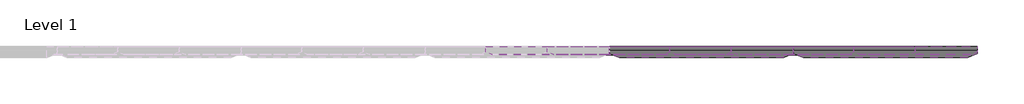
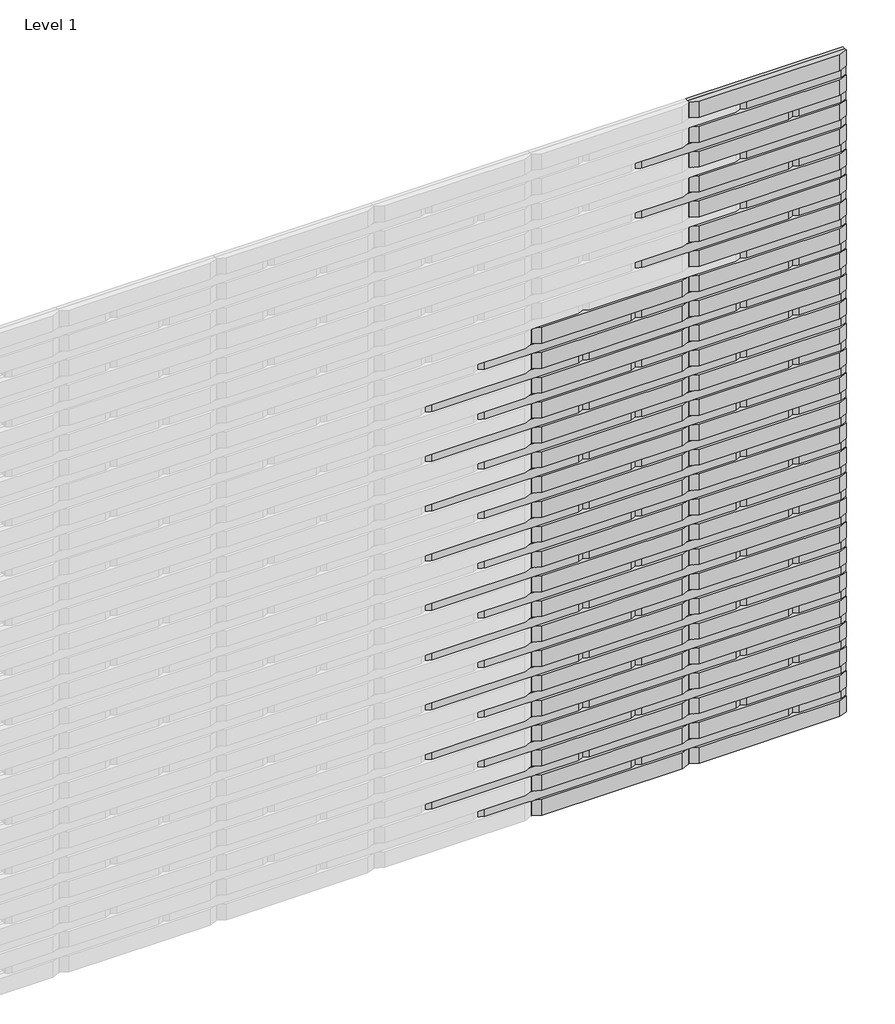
# One storey, part 3 of 3: 114 proxies.
"""IFC4 building model written with IfcOpenShell, lengths in millimetres."""

from ifc_helpers import new_model, si_unit, origin, place, context, project, spatial, transform, mapped, element, save
from components import specialty_equipment_40f1bc00, specialty_equipment_8bea2172, specialty_equipment_72e67ab6, specialty_equipment_d85b5aa4

model = new_model("IFC4")

# Units and contexts
model_context = context("Model", 3, world=origin())
ifc_project = project(units=[si_unit("LENGTHUNIT", "METRE", prefix="MILLI")], contexts=[model_context])

# Site, building, storey
site = spatial("IfcSite", under=ifc_project)
building = spatial("IfcBuilding", under=site)
storey = spatial("IfcBuildingStorey", under=building, Name="Level 1", Elevation=0.0)

# Proxies
placement = place(None, origin())
specialty_equipment_shape = specialty_equipment_40f1bc00(model_context)
element("IfcBuildingElementProxy", 1, Name="Spinneybeck_ARO Plank 8 : A - 2’-9” x 3 1/2” x 1 1/4”", ObjectType="Spinneybeck_ARO Plank 8 : A - 2’-9” x 3 1/2” x 1 1/4”", at=placement, inside=storey, context=model_context, shape_type="MappedRepresentation", body=[
    mapped(specialty_equipment_shape, transform((4490.979612, 2593.3070483, 3755.55), x_axis=(1.0, 0.0, 0.0), y_axis=(0.0, 0.0, 1.0), z_axis=(0.0, -1.0, 0.0))),
])
element("IfcBuildingElementProxy", 2, Name="Spinneybeck_ARO Plank 8 : A - 2’-9” x 3 1/2” x 1 1/4”", ObjectType="Spinneybeck_ARO Plank 8 : A - 2’-9” x 3 1/2” x 1 1/4”", at=placement, inside=storey, context=model_context, shape_type="MappedRepresentation", body=[
    mapped(specialty_equipment_shape, transform((4490.979612, 2593.3070483, 3615.85), x_axis=(1.0, 0.0, 0.0), y_axis=(0.0, 0.0, 1.0), z_axis=(0.0, -1.0, 0.0))),
])
element("IfcBuildingElementProxy", 3, Name="Spinneybeck_ARO Plank 8 : A - 2’-9” x 3 1/2” x 1 1/4”", ObjectType="Spinneybeck_ARO Plank 8 : A - 2’-9” x 3 1/2” x 1 1/4”", at=placement, inside=storey, context=model_context, shape_type="MappedRepresentation", body=[
    mapped(specialty_equipment_shape, transform((4490.979612, 2593.3070483, 3476.15), x_axis=(1.0, 0.0, 0.0), y_axis=(0.0, 0.0, 1.0), z_axis=(0.0, -1.0, 0.0))),
])
element("IfcBuildingElementProxy", 4, Name="Spinneybeck_ARO Plank 8 : A - 2’-9” x 3 1/2” x 1 1/4”", ObjectType="Spinneybeck_ARO Plank 8 : A - 2’-9” x 3 1/2” x 1 1/4”", at=placement, inside=storey, context=model_context, shape_type="MappedRepresentation", body=[
    mapped(specialty_equipment_shape, transform((4490.979612, 2593.3070483, 3336.45), x_axis=(1.0, 0.0, 0.0), y_axis=(0.0, 0.0, 1.0), z_axis=(0.0, -1.0, 0.0))),
])
element("IfcBuildingElementProxy", 5, Name="Spinneybeck_ARO Plank 8 : A - 2’-9” x 3 1/2” x 1 1/4”", ObjectType="Spinneybeck_ARO Plank 8 : A - 2’-9” x 3 1/2” x 1 1/4”", at=placement, inside=storey, context=model_context, shape_type="MappedRepresentation", body=[
    mapped(specialty_equipment_shape, transform((4490.979612, 2593.3070483, 3196.75), x_axis=(1.0, 0.0, 0.0), y_axis=(0.0, 0.0, 1.0), z_axis=(0.0, -1.0, 0.0))),
])
element("IfcBuildingElementProxy", 6, Name="Spinneybeck_ARO Plank 8 : A - 2’-9” x 3 1/2” x 1 1/4”", ObjectType="Spinneybeck_ARO Plank 8 : A - 2’-9” x 3 1/2” x 1 1/4”", at=placement, inside=storey, context=model_context, shape_type="MappedRepresentation", body=[
    mapped(specialty_equipment_shape, transform((4490.979612, 2593.3070483, 3057.05), x_axis=(1.0, 0.0, 0.0), y_axis=(0.0, 0.0, 1.0), z_axis=(0.0, -1.0, 0.0))),
])
element("IfcBuildingElementProxy", 7, Name="Spinneybeck_ARO Plank 8 : A - 2’-9” x 3 1/2” x 1 1/4”", ObjectType="Spinneybeck_ARO Plank 8 : A - 2’-9” x 3 1/2” x 1 1/4”", at=placement, inside=storey, context=model_context, shape_type="MappedRepresentation", body=[
    mapped(specialty_equipment_shape, transform((4490.979612, 2593.3070483, 2917.35), x_axis=(1.0, 0.0, 0.0), y_axis=(0.0, 0.0, 1.0), z_axis=(0.0, -1.0, 0.0))),
])
element("IfcBuildingElementProxy", 8, Name="Spinneybeck_ARO Plank 8 : A - 2’-9” x 3 1/2” x 1 1/4”", ObjectType="Spinneybeck_ARO Plank 8 : A - 2’-9” x 3 1/2” x 1 1/4”", at=placement, inside=storey, context=model_context, shape_type="MappedRepresentation", body=[
    mapped(specialty_equipment_shape, transform((3652.779612, 2593.3070483, 2777.65), x_axis=(1.0, 0.0, 0.0), y_axis=(0.0, 0.0, 1.0), z_axis=(0.0, -1.0, 0.0))),
])
element("IfcBuildingElementProxy", 9, Name="Spinneybeck_ARO Plank 8 : A - 2’-9” x 3 1/2” x 1 1/4”", ObjectType="Spinneybeck_ARO Plank 8 : A - 2’-9” x 3 1/2” x 1 1/4”", at=placement, inside=storey, context=model_context, shape_type="MappedRepresentation", body=[
    mapped(specialty_equipment_shape, transform((4490.979612, 2593.3070483, 2777.65), x_axis=(1.0, 0.0, 0.0), y_axis=(0.0, 0.0, 1.0), z_axis=(0.0, -1.0, 0.0))),
])
element("IfcBuildingElementProxy", 10, Name="Spinneybeck_ARO Plank 8 : A - 2’-9” x 3 1/2” x 1 1/4”", ObjectType="Spinneybeck_ARO Plank 8 : A - 2’-9” x 3 1/2” x 1 1/4”", at=placement, inside=storey, context=model_context, shape_type="MappedRepresentation", body=[
    mapped(specialty_equipment_shape, transform((3652.779612, 2593.3070483, 2637.95), x_axis=(1.0, 0.0, 0.0), y_axis=(0.0, 0.0, 1.0), z_axis=(0.0, -1.0, 0.0))),
])
element("IfcBuildingElementProxy", 11, Name="Spinneybeck_ARO Plank 8 : A - 2’-9” x 3 1/2” x 1 1/4”", ObjectType="Spinneybeck_ARO Plank 8 : A - 2’-9” x 3 1/2” x 1 1/4”", at=placement, inside=storey, context=model_context, shape_type="MappedRepresentation", body=[
    mapped(specialty_equipment_shape, transform((4490.979612, 2593.3070483, 2637.95), x_axis=(1.0, 0.0, 0.0), y_axis=(0.0, 0.0, 1.0), z_axis=(0.0, -1.0, 0.0))),
])
element("IfcBuildingElementProxy", 12, Name="Spinneybeck_ARO Plank 8 : A - 2’-9” x 3 1/2” x 1 1/4”", ObjectType="Spinneybeck_ARO Plank 8 : A - 2’-9” x 3 1/2” x 1 1/4”", at=placement, inside=storey, context=model_context, shape_type="MappedRepresentation", body=[
    mapped(specialty_equipment_shape, transform((3652.779612, 2593.3070483, 2498.25), x_axis=(1.0, 0.0, 0.0), y_axis=(0.0, 0.0, 1.0), z_axis=(0.0, -1.0, 0.0))),
])
element("IfcBuildingElementProxy", 13, Name="Spinneybeck_ARO Plank 8 : A - 2’-9” x 3 1/2” x 1 1/4”", ObjectType="Spinneybeck_ARO Plank 8 : A - 2’-9” x 3 1/2” x 1 1/4”", at=placement, inside=storey, context=model_context, shape_type="MappedRepresentation", body=[
    mapped(specialty_equipment_shape, transform((4490.979612, 2593.3070483, 2498.25), x_axis=(1.0, 0.0, 0.0), y_axis=(0.0, 0.0, 1.0), z_axis=(0.0, -1.0, 0.0))),
])
element("IfcBuildingElementProxy", 14, Name="Spinneybeck_ARO Plank 8 : A - 2’-9” x 3 1/2” x 1 1/4”", ObjectType="Spinneybeck_ARO Plank 8 : A - 2’-9” x 3 1/2” x 1 1/4”", at=placement, inside=storey, context=model_context, shape_type="MappedRepresentation", body=[
    mapped(specialty_equipment_shape, transform((3652.779612, 2593.3070483, 2358.55), x_axis=(1.0, 0.0, 0.0), y_axis=(0.0, 0.0, 1.0), z_axis=(0.0, -1.0, 0.0))),
])
element("IfcBuildingElementProxy", 15, Name="Spinneybeck_ARO Plank 8 : A - 2’-9” x 3 1/2” x 1 1/4”", ObjectType="Spinneybeck_ARO Plank 8 : A - 2’-9” x 3 1/2” x 1 1/4”", at=placement, inside=storey, context=model_context, shape_type="MappedRepresentation", body=[
    mapped(specialty_equipment_shape, transform((4490.979612, 2593.3070483, 2358.55), x_axis=(1.0, 0.0, 0.0), y_axis=(0.0, 0.0, 1.0), z_axis=(0.0, -1.0, 0.0))),
])
element("IfcBuildingElementProxy", 16, Name="Spinneybeck_ARO Plank 8 : A - 2’-9” x 3 1/2” x 1 1/4”", ObjectType="Spinneybeck_ARO Plank 8 : A - 2’-9” x 3 1/2” x 1 1/4”", at=placement, inside=storey, context=model_context, shape_type="MappedRepresentation", body=[
    mapped(specialty_equipment_shape, transform((3652.779612, 2593.3070483, 2218.85), x_axis=(1.0, 0.0, 0.0), y_axis=(0.0, 0.0, 1.0), z_axis=(0.0, -1.0, 0.0))),
])
element("IfcBuildingElementProxy", 17, Name="Spinneybeck_ARO Plank 8 : A - 2’-9” x 3 1/2” x 1 1/4”", ObjectType="Spinneybeck_ARO Plank 8 : A - 2’-9” x 3 1/2” x 1 1/4”", at=placement, inside=storey, context=model_context, shape_type="MappedRepresentation", body=[
    mapped(specialty_equipment_shape, transform((4490.979612, 2593.3070483, 2218.85), x_axis=(1.0, 0.0, 0.0), y_axis=(0.0, 0.0, 1.0), z_axis=(0.0, -1.0, 0.0))),
])
element("IfcBuildingElementProxy", 18, Name="Spinneybeck_ARO Plank 8 : A - 2’-9” x 3 1/2” x 1 1/4”", ObjectType="Spinneybeck_ARO Plank 8 : A - 2’-9” x 3 1/2” x 1 1/4”", at=placement, inside=storey, context=model_context, shape_type="MappedRepresentation", body=[
    mapped(specialty_equipment_shape, transform((3652.779612, 2593.3070483, 2079.15), x_axis=(1.0, 0.0, 0.0), y_axis=(0.0, 0.0, 1.0), z_axis=(0.0, -1.0, 0.0))),
])
element("IfcBuildingElementProxy", 19, Name="Spinneybeck_ARO Plank 8 : A - 2’-9” x 3 1/2” x 1 1/4”", ObjectType="Spinneybeck_ARO Plank 8 : A - 2’-9” x 3 1/2” x 1 1/4”", at=placement, inside=storey, context=model_context, shape_type="MappedRepresentation", body=[
    mapped(specialty_equipment_shape, transform((4490.979612, 2593.3070483, 2079.15), x_axis=(1.0, 0.0, 0.0), y_axis=(0.0, 0.0, 1.0), z_axis=(0.0, -1.0, 0.0))),
])
element("IfcBuildingElementProxy", 20, Name="Spinneybeck_ARO Plank 8 : A - 2’-9” x 3 1/2” x 1 1/4”", ObjectType="Spinneybeck_ARO Plank 8 : A - 2’-9” x 3 1/2” x 1 1/4”", at=placement, inside=storey, context=model_context, shape_type="MappedRepresentation", body=[
    mapped(specialty_equipment_shape, transform((3652.779612, 2593.3070483, 1939.45), x_axis=(1.0, 0.0, 0.0), y_axis=(0.0, 0.0, 1.0), z_axis=(0.0, -1.0, 0.0))),
])
element("IfcBuildingElementProxy", 21, Name="Spinneybeck_ARO Plank 8 : A - 2’-9” x 3 1/2” x 1 1/4”", ObjectType="Spinneybeck_ARO Plank 8 : A - 2’-9” x 3 1/2” x 1 1/4”", at=placement, inside=storey, context=model_context, shape_type="MappedRepresentation", body=[
    mapped(specialty_equipment_shape, transform((4490.979612, 2593.3070483, 1939.45), x_axis=(1.0, 0.0, 0.0), y_axis=(0.0, 0.0, 1.0), z_axis=(0.0, -1.0, 0.0))),
])
element("IfcBuildingElementProxy", 22, Name="Spinneybeck_ARO Plank 8 : A - 2’-9” x 3 1/2” x 1 1/4”", ObjectType="Spinneybeck_ARO Plank 8 : A - 2’-9” x 3 1/2” x 1 1/4”", at=placement, inside=storey, context=model_context, shape_type="MappedRepresentation", body=[
    mapped(specialty_equipment_shape, transform((3652.779612, 2593.3070483, 1799.75), x_axis=(1.0, 0.0, 0.0), y_axis=(0.0, 0.0, 1.0), z_axis=(0.0, -1.0, 0.0))),
])
element("IfcBuildingElementProxy", 23, Name="Spinneybeck_ARO Plank 8 : A - 2’-9” x 3 1/2” x 1 1/4”", ObjectType="Spinneybeck_ARO Plank 8 : A - 2’-9” x 3 1/2” x 1 1/4”", at=placement, inside=storey, context=model_context, shape_type="MappedRepresentation", body=[
    mapped(specialty_equipment_shape, transform((4490.979612, 2593.3070483, 1799.75), x_axis=(1.0, 0.0, 0.0), y_axis=(0.0, 0.0, 1.0), z_axis=(0.0, -1.0, 0.0))),
])
element("IfcBuildingElementProxy", 24, Name="Spinneybeck_ARO Plank 8 : A - 2’-9” x 3 1/2” x 1 1/4”", ObjectType="Spinneybeck_ARO Plank 8 : A - 2’-9” x 3 1/2” x 1 1/4”", at=placement, inside=storey, context=model_context, shape_type="MappedRepresentation", body=[
    mapped(specialty_equipment_shape, transform((3652.779612, 2593.3070483, 1660.05), x_axis=(1.0, 0.0, 0.0), y_axis=(0.0, 0.0, 1.0), z_axis=(0.0, -1.0, 0.0))),
])
element("IfcBuildingElementProxy", 25, Name="Spinneybeck_ARO Plank 8 : A - 2’-9” x 3 1/2” x 1 1/4”", ObjectType="Spinneybeck_ARO Plank 8 : A - 2’-9” x 3 1/2” x 1 1/4”", at=placement, inside=storey, context=model_context, shape_type="MappedRepresentation", body=[
    mapped(specialty_equipment_shape, transform((4490.979612, 2593.3070483, 1660.05), x_axis=(1.0, 0.0, 0.0), y_axis=(0.0, 0.0, 1.0), z_axis=(0.0, -1.0, 0.0))),
])
element("IfcBuildingElementProxy", 26, Name="Spinneybeck_ARO Plank 8 : A - 2’-9” x 3 1/2” x 1 1/4”", ObjectType="Spinneybeck_ARO Plank 8 : A - 2’-9” x 3 1/2” x 1 1/4”", at=placement, inside=storey, context=model_context, shape_type="MappedRepresentation", body=[
    mapped(specialty_equipment_shape, transform((3652.779612, 2593.3070483, 1520.35), x_axis=(1.0, 0.0, 0.0), y_axis=(0.0, 0.0, 1.0), z_axis=(0.0, -1.0, 0.0))),
])
element("IfcBuildingElementProxy", 27, Name="Spinneybeck_ARO Plank 8 : A - 2’-9” x 3 1/2” x 1 1/4”", ObjectType="Spinneybeck_ARO Plank 8 : A - 2’-9” x 3 1/2” x 1 1/4”", at=placement, inside=storey, context=model_context, shape_type="MappedRepresentation", body=[
    mapped(specialty_equipment_shape, transform((4490.979612, 2593.3070483, 1520.35), x_axis=(1.0, 0.0, 0.0), y_axis=(0.0, 0.0, 1.0), z_axis=(0.0, -1.0, 0.0))),
])
element("IfcBuildingElementProxy", 28, Name="Spinneybeck_ARO Plank 8 : A - 2’-9” x 3 1/2” x 1 1/4”", ObjectType="Spinneybeck_ARO Plank 8 : A - 2’-9” x 3 1/2” x 1 1/4”", at=placement, inside=storey, context=model_context, shape_type="MappedRepresentation", body=[
    mapped(specialty_equipment_shape, transform((3652.779612, 2593.3070483, 1380.65), x_axis=(1.0, 0.0, 0.0), y_axis=(0.0, 0.0, 1.0), z_axis=(0.0, -1.0, 0.0))),
])
element("IfcBuildingElementProxy", 29, Name="Spinneybeck_ARO Plank 8 : A - 2’-9” x 3 1/2” x 1 1/4”", ObjectType="Spinneybeck_ARO Plank 8 : A - 2’-9” x 3 1/2” x 1 1/4”", at=placement, inside=storey, context=model_context, shape_type="MappedRepresentation", body=[
    mapped(specialty_equipment_shape, transform((4490.979612, 2593.3070483, 1380.65), x_axis=(1.0, 0.0, 0.0), y_axis=(0.0, 0.0, 1.0), z_axis=(0.0, -1.0, 0.0))),
])
element("IfcBuildingElementProxy", 30, Name="Spinneybeck_ARO Plank 8 : A - 2’-9” x 3 1/2” x 1 1/4”", ObjectType="Spinneybeck_ARO Plank 8 : A - 2’-9” x 3 1/2” x 1 1/4”", at=placement, inside=storey, context=model_context, shape_type="MappedRepresentation", body=[
    mapped(specialty_equipment_shape, transform((3652.779612, 2593.3070483, 1240.95), x_axis=(1.0, 0.0, 0.0), y_axis=(0.0, 0.0, 1.0), z_axis=(0.0, -1.0, 0.0))),
])
element("IfcBuildingElementProxy", 31, Name="Spinneybeck_ARO Plank 8 : A - 2’-9” x 3 1/2” x 1 1/4”", ObjectType="Spinneybeck_ARO Plank 8 : A - 2’-9” x 3 1/2” x 1 1/4”", at=placement, inside=storey, context=model_context, shape_type="MappedRepresentation", body=[
    mapped(specialty_equipment_shape, transform((4490.979612, 2593.3070483, 1240.95), x_axis=(1.0, 0.0, 0.0), y_axis=(0.0, 0.0, 1.0), z_axis=(0.0, -1.0, 0.0))),
])
element("IfcBuildingElementProxy", 32, Name="Spinneybeck_ARO Plank 8 : A - 2’-9” x 3 1/2” x 1 1/4”", ObjectType="Spinneybeck_ARO Plank 8 : A - 2’-9” x 3 1/2” x 1 1/4”", at=placement, inside=storey, context=model_context, shape_type="MappedRepresentation", body=[
    mapped(specialty_equipment_shape, transform((3652.779612, 2593.3070483, 1101.25), x_axis=(1.0, 0.0, 0.0), y_axis=(0.0, 0.0, 1.0), z_axis=(0.0, -1.0, 0.0))),
])
element("IfcBuildingElementProxy", 33, Name="Spinneybeck_ARO Plank 8 : A - 2’-9” x 3 1/2” x 1 1/4”", ObjectType="Spinneybeck_ARO Plank 8 : A - 2’-9” x 3 1/2” x 1 1/4”", at=placement, inside=storey, context=model_context, shape_type="MappedRepresentation", body=[
    mapped(specialty_equipment_shape, transform((4490.979612, 2593.3070483, 1101.25), x_axis=(1.0, 0.0, 0.0), y_axis=(0.0, 0.0, 1.0), z_axis=(0.0, -1.0, 0.0))),
])
element("IfcBuildingElementProxy", 34, Name="Spinneybeck_ARO Plank 8 : A - 2’-9” x 3 1/2” x 1 1/4”", ObjectType="Spinneybeck_ARO Plank 8 : A - 2’-9” x 3 1/2” x 1 1/4”", at=placement, inside=storey, context=model_context, shape_type="MappedRepresentation", body=[
    mapped(specialty_equipment_shape, transform((3652.779612, 2593.3070483, 961.55), x_axis=(1.0, 0.0, 0.0), y_axis=(0.0, 0.0, 1.0), z_axis=(0.0, -1.0, 0.0))),
])
element("IfcBuildingElementProxy", 35, Name="Spinneybeck_ARO Plank 8 : A - 2’-9” x 3 1/2” x 1 1/4”", ObjectType="Spinneybeck_ARO Plank 8 : A - 2’-9” x 3 1/2” x 1 1/4”", at=placement, inside=storey, context=model_context, shape_type="MappedRepresentation", body=[
    mapped(specialty_equipment_shape, transform((4490.979612, 2593.3070483, 961.55), x_axis=(1.0, 0.0, 0.0), y_axis=(0.0, 0.0, 1.0), z_axis=(0.0, -1.0, 0.0))),
])
element("IfcBuildingElementProxy", 36, Name="Spinneybeck_ARO Plank 8 : A - 2’-9” x 3 1/2” x 1 1/4”", ObjectType="Spinneybeck_ARO Plank 8 : A - 2’-9” x 3 1/2” x 1 1/4”", at=placement, inside=storey, context=model_context, shape_type="MappedRepresentation", body=[
    mapped(specialty_equipment_shape, transform((3652.779612, 2593.3070483, 821.85), x_axis=(1.0, 0.0, 0.0), y_axis=(0.0, 0.0, 1.0), z_axis=(0.0, -1.0, 0.0))),
])
element("IfcBuildingElementProxy", 37, Name="Spinneybeck_ARO Plank 8 : A - 2’-9” x 3 1/2” x 1 1/4”", ObjectType="Spinneybeck_ARO Plank 8 : A - 2’-9” x 3 1/2” x 1 1/4”", at=placement, inside=storey, context=model_context, shape_type="MappedRepresentation", body=[
    mapped(specialty_equipment_shape, transform((4490.979612, 2593.3070483, 821.85), x_axis=(1.0, 0.0, 0.0), y_axis=(0.0, 0.0, 1.0), z_axis=(0.0, -1.0, 0.0))),
])
element("IfcBuildingElementProxy", 38, Name="Spinneybeck_ARO Plank 8 : A - 2’-9” x 3 1/2” x 1 1/4”", ObjectType="Spinneybeck_ARO Plank 8 : A - 2’-9” x 3 1/2” x 1 1/4”", at=placement, inside=storey, context=model_context, shape_type="MappedRepresentation", body=[
    mapped(specialty_equipment_shape, transform((3652.779612, 2593.3070483, 682.15), x_axis=(1.0, 0.0, 0.0), y_axis=(0.0, 0.0, 1.0), z_axis=(0.0, -1.0, 0.0))),
])
element("IfcBuildingElementProxy", 39, Name="Spinneybeck_ARO Plank 8 : A - 2’-9” x 3 1/2” x 1 1/4”", ObjectType="Spinneybeck_ARO Plank 8 : A - 2’-9” x 3 1/2” x 1 1/4”", at=placement, inside=storey, context=model_context, shape_type="MappedRepresentation", body=[
    mapped(specialty_equipment_shape, transform((4490.979612, 2593.3070483, 682.15), x_axis=(1.0, 0.0, 0.0), y_axis=(0.0, 0.0, 1.0), z_axis=(0.0, -1.0, 0.0))),
])
element("IfcBuildingElementProxy", 40, Name="Spinneybeck_ARO Plank 8 : A - 2’-9” x 3 1/2” x 1 1/4”", ObjectType="Spinneybeck_ARO Plank 8 : A - 2’-9” x 3 1/2” x 1 1/4”", at=placement, inside=storey, context=model_context, shape_type="MappedRepresentation", body=[
    mapped(specialty_equipment_shape, transform((3652.779612, 2593.3070483, 542.45), x_axis=(1.0, 0.0, 0.0), y_axis=(0.0, 0.0, 1.0), z_axis=(0.0, -1.0, 0.0))),
])
element("IfcBuildingElementProxy", 41, Name="Spinneybeck_ARO Plank 8 : A - 2’-9” x 3 1/2” x 1 1/4”", ObjectType="Spinneybeck_ARO Plank 8 : A - 2’-9” x 3 1/2” x 1 1/4”", at=placement, inside=storey, context=model_context, shape_type="MappedRepresentation", body=[
    mapped(specialty_equipment_shape, transform((4490.979612, 2593.3070483, 542.45), x_axis=(1.0, 0.0, 0.0), y_axis=(0.0, 0.0, 1.0), z_axis=(0.0, -1.0, 0.0))),
])
element("IfcBuildingElementProxy", 42, Name="Spinneybeck_ARO Plank 8 : A - 2’-9” x 3 1/2” x 1 1/4”", ObjectType="Spinneybeck_ARO Plank 8 : A - 2’-9” x 3 1/2” x 1 1/4”", at=placement, inside=storey, context=model_context, shape_type="MappedRepresentation", body=[
    mapped(specialty_equipment_shape, transform((3652.779612, 2593.3070483, 402.75), x_axis=(1.0, 0.0, 0.0), y_axis=(0.0, 0.0, 1.0), z_axis=(0.0, -1.0, 0.0))),
])
element("IfcBuildingElementProxy", 43, Name="Spinneybeck_ARO Plank 8 : A - 2’-9” x 3 1/2” x 1 1/4”", ObjectType="Spinneybeck_ARO Plank 8 : A - 2’-9” x 3 1/2” x 1 1/4”", at=placement, inside=storey, context=model_context, shape_type="MappedRepresentation", body=[
    mapped(specialty_equipment_shape, transform((4490.979612, 2593.3070483, 402.75), x_axis=(1.0, 0.0, 0.0), y_axis=(0.0, 0.0, 1.0), z_axis=(0.0, -1.0, 0.0))),
])
element("IfcBuildingElementProxy", 44, Name="Spinneybeck_ARO Plank 8 : A - 2’-9” x 3 1/2” x 1 1/4”", ObjectType="Spinneybeck_ARO Plank 8 : A - 2’-9” x 3 1/2” x 1 1/4”", at=placement, inside=storey, context=model_context, shape_type="MappedRepresentation", body=[
    mapped(specialty_equipment_shape, transform((3652.779612, 2593.3070483, 263.05), x_axis=(1.0, 0.0, 0.0), y_axis=(0.0, 0.0, 1.0), z_axis=(0.0, -1.0, 0.0))),
])
element("IfcBuildingElementProxy", 45, Name="Spinneybeck_ARO Plank 8 : A - 2’-9” x 3 1/2” x 1 1/4”", ObjectType="Spinneybeck_ARO Plank 8 : A - 2’-9” x 3 1/2” x 1 1/4”", at=placement, inside=storey, context=model_context, shape_type="MappedRepresentation", body=[
    mapped(specialty_equipment_shape, transform((4490.979612, 2593.3070483, 263.05), x_axis=(1.0, 0.0, 0.0), y_axis=(0.0, 0.0, 1.0), z_axis=(0.0, -1.0, 0.0))),
])
element("IfcBuildingElementProxy", 46, Name="Spinneybeck_ARO Plank 8 : A - 2’-9” x 3 1/2” x 1 1/4”", ObjectType="Spinneybeck_ARO Plank 8 : A - 2’-9” x 3 1/2” x 1 1/4”", at=placement, inside=storey, context=model_context, shape_type="MappedRepresentation", body=[
    mapped(specialty_equipment_shape, transform((3652.779612, 2593.3070483, 123.35), x_axis=(1.0, 0.0, 0.0), y_axis=(0.0, 0.0, 1.0), z_axis=(0.0, -1.0, 0.0))),
])
element("IfcBuildingElementProxy", 47, Name="Spinneybeck_ARO Plank 8 : A - 2’-9” x 3 1/2” x 1 1/4”", ObjectType="Spinneybeck_ARO Plank 8 : A - 2’-9” x 3 1/2” x 1 1/4”", at=placement, inside=storey, context=model_context, shape_type="MappedRepresentation", body=[
    mapped(specialty_equipment_shape, transform((4490.979612, 2593.3070483, 123.35), x_axis=(1.0, 0.0, 0.0), y_axis=(0.0, 0.0, 1.0), z_axis=(0.0, -1.0, 0.0))),
])
specialty_equipment_2_shape = specialty_equipment_8bea2172(model_context)
element("IfcBuildingElementProxy", 48, Name="Spinneybeck_ARO Plank 8 : B - 2’-9” x 2” x 3/4”", ObjectType="Spinneybeck_ARO Plank 8 : B - 2’-9” x 2” x 3/4”", at=placement, inside=storey, context=model_context, shape_type="MappedRepresentation", body=[
    mapped(specialty_equipment_2_shape, transform((4208.436232, 2593.3070483, 3546.0), x_axis=(1.0, 0.0, 0.0), y_axis=(0.0, 0.0, 1.0), z_axis=(0.0, -1.0, 0.0))),
])
element("IfcBuildingElementProxy", 49, Name="Spinneybeck_ARO Plank 8 : B - 2’-9” x 2” x 3/4”", ObjectType="Spinneybeck_ARO Plank 8 : B - 2’-9” x 2” x 3/4”", at=placement, inside=storey, context=model_context, shape_type="MappedRepresentation", body=[
    mapped(specialty_equipment_2_shape, transform((4208.436232, 2593.3070483, 3266.6), x_axis=(1.0, 0.0, 0.0), y_axis=(0.0, 0.0, 1.0), z_axis=(0.0, -1.0, 0.0))),
])
element("IfcBuildingElementProxy", 50, Name="Spinneybeck_ARO Plank 8 : B - 2’-9” x 2” x 3/4”", ObjectType="Spinneybeck_ARO Plank 8 : B - 2’-9” x 2” x 3/4”", at=placement, inside=storey, context=model_context, shape_type="MappedRepresentation", body=[
    mapped(specialty_equipment_2_shape, transform((4208.436232, 2593.3070483, 2987.2), x_axis=(1.0, 0.0, 0.0), y_axis=(0.0, 0.0, 1.0), z_axis=(0.0, -1.0, 0.0))),
])
element("IfcBuildingElementProxy", 51, Name="Spinneybeck_ARO Plank 8 : B - 2’-9” x 2” x 3/4”", ObjectType="Spinneybeck_ARO Plank 8 : B - 2’-9” x 2” x 3/4”", at=placement, inside=storey, context=model_context, shape_type="MappedRepresentation", body=[
    mapped(specialty_equipment_2_shape, transform((3370.236232, 2593.3070483, 2707.8), x_axis=(1.0, 0.0, 0.0), y_axis=(0.0, 0.0, 1.0), z_axis=(0.0, -1.0, 0.0))),
])
element("IfcBuildingElementProxy", 52, Name="Spinneybeck_ARO Plank 8 : B - 2’-9” x 2” x 3/4”", ObjectType="Spinneybeck_ARO Plank 8 : B - 2’-9” x 2” x 3/4”", at=placement, inside=storey, context=model_context, shape_type="MappedRepresentation", body=[
    mapped(specialty_equipment_2_shape, transform((4208.436232, 2593.3070483, 2707.8), x_axis=(1.0, 0.0, 0.0), y_axis=(0.0, 0.0, 1.0), z_axis=(0.0, -1.0, 0.0))),
])
element("IfcBuildingElementProxy", 53, Name="Spinneybeck_ARO Plank 8 : B - 2’-9” x 2” x 3/4”", ObjectType="Spinneybeck_ARO Plank 8 : B - 2’-9” x 2” x 3/4”", at=placement, inside=storey, context=model_context, shape_type="MappedRepresentation", body=[
    mapped(specialty_equipment_2_shape, transform((3090.236232, 2593.3070483, 2568.1), x_axis=(1.0, 0.0, 0.0), y_axis=(0.0, 0.0, 1.0), z_axis=(0.0, -1.0, 0.0))),
])
element("IfcBuildingElementProxy", 54, Name="Spinneybeck_ARO Plank 8 : B - 2’-9” x 2” x 3/4”", ObjectType="Spinneybeck_ARO Plank 8 : B - 2’-9” x 2” x 3/4”", at=placement, inside=storey, context=model_context, shape_type="MappedRepresentation", body=[
    mapped(specialty_equipment_2_shape, transform((3928.436232, 2593.3070483, 2568.1), x_axis=(1.0, 0.0, 0.0), y_axis=(0.0, 0.0, 1.0), z_axis=(0.0, -1.0, 0.0))),
])
element("IfcBuildingElementProxy", 55, Name="Spinneybeck_ARO Plank 8 : B - 2’-9” x 2” x 3/4”", ObjectType="Spinneybeck_ARO Plank 8 : B - 2’-9” x 2” x 3/4”", at=placement, inside=storey, context=model_context, shape_type="MappedRepresentation", body=[
    mapped(specialty_equipment_2_shape, transform((3370.236232, 2593.3070483, 2428.4), x_axis=(1.0, 0.0, 0.0), y_axis=(0.0, 0.0, 1.0), z_axis=(0.0, -1.0, 0.0))),
])
element("IfcBuildingElementProxy", 56, Name="Spinneybeck_ARO Plank 8 : B - 2’-9” x 2” x 3/4”", ObjectType="Spinneybeck_ARO Plank 8 : B - 2’-9” x 2” x 3/4”", at=placement, inside=storey, context=model_context, shape_type="MappedRepresentation", body=[
    mapped(specialty_equipment_2_shape, transform((4208.436232, 2593.3070483, 2428.4), x_axis=(1.0, 0.0, 0.0), y_axis=(0.0, 0.0, 1.0), z_axis=(0.0, -1.0, 0.0))),
])
element("IfcBuildingElementProxy", 57, Name="Spinneybeck_ARO Plank 8 : B - 2’-9” x 2” x 3/4”", ObjectType="Spinneybeck_ARO Plank 8 : B - 2’-9” x 2” x 3/4”", at=placement, inside=storey, context=model_context, shape_type="MappedRepresentation", body=[
    mapped(specialty_equipment_2_shape, transform((3090.236232, 2593.3070483, 2288.7), x_axis=(1.0, 0.0, 0.0), y_axis=(0.0, 0.0, 1.0), z_axis=(0.0, -1.0, 0.0))),
])
element("IfcBuildingElementProxy", 58, Name="Spinneybeck_ARO Plank 8 : B - 2’-9” x 2” x 3/4”", ObjectType="Spinneybeck_ARO Plank 8 : B - 2’-9” x 2” x 3/4”", at=placement, inside=storey, context=model_context, shape_type="MappedRepresentation", body=[
    mapped(specialty_equipment_2_shape, transform((3928.436232, 2593.3070483, 2288.7), x_axis=(1.0, 0.0, 0.0), y_axis=(0.0, 0.0, 1.0), z_axis=(0.0, -1.0, 0.0))),
])
element("IfcBuildingElementProxy", 59, Name="Spinneybeck_ARO Plank 8 : B - 2’-9” x 2” x 3/4”", ObjectType="Spinneybeck_ARO Plank 8 : B - 2’-9” x 2” x 3/4”", at=placement, inside=storey, context=model_context, shape_type="MappedRepresentation", body=[
    mapped(specialty_equipment_2_shape, transform((3370.236232, 2593.3070483, 2149.0), x_axis=(1.0, 0.0, 0.0), y_axis=(0.0, 0.0, 1.0), z_axis=(0.0, -1.0, 0.0))),
])
element("IfcBuildingElementProxy", 60, Name="Spinneybeck_ARO Plank 8 : B - 2’-9” x 2” x 3/4”", ObjectType="Spinneybeck_ARO Plank 8 : B - 2’-9” x 2” x 3/4”", at=placement, inside=storey, context=model_context, shape_type="MappedRepresentation", body=[
    mapped(specialty_equipment_2_shape, transform((4208.436232, 2593.3070483, 2149.0), x_axis=(1.0, 0.0, 0.0), y_axis=(0.0, 0.0, 1.0), z_axis=(0.0, -1.0, 0.0))),
])
element("IfcBuildingElementProxy", 61, Name="Spinneybeck_ARO Plank 8 : B - 2’-9” x 2” x 3/4”", ObjectType="Spinneybeck_ARO Plank 8 : B - 2’-9” x 2” x 3/4”", at=placement, inside=storey, context=model_context, shape_type="MappedRepresentation", body=[
    mapped(specialty_equipment_2_shape, transform((3090.236232, 2593.3070483, 2009.3), x_axis=(1.0, 0.0, 0.0), y_axis=(0.0, 0.0, 1.0), z_axis=(0.0, -1.0, 0.0))),
])
element("IfcBuildingElementProxy", 62, Name="Spinneybeck_ARO Plank 8 : B - 2’-9” x 2” x 3/4”", ObjectType="Spinneybeck_ARO Plank 8 : B - 2’-9” x 2” x 3/4”", at=placement, inside=storey, context=model_context, shape_type="MappedRepresentation", body=[
    mapped(specialty_equipment_2_shape, transform((3928.436232, 2593.3070483, 2009.3), x_axis=(1.0, 0.0, 0.0), y_axis=(0.0, 0.0, 1.0), z_axis=(0.0, -1.0, 0.0))),
])
element("IfcBuildingElementProxy", 63, Name="Spinneybeck_ARO Plank 8 : B - 2’-9” x 2” x 3/4”", ObjectType="Spinneybeck_ARO Plank 8 : B - 2’-9” x 2” x 3/4”", at=placement, inside=storey, context=model_context, shape_type="MappedRepresentation", body=[
    mapped(specialty_equipment_2_shape, transform((3370.236232, 2593.3070483, 1869.6), x_axis=(1.0, 0.0, 0.0), y_axis=(0.0, 0.0, 1.0), z_axis=(0.0, -1.0, 0.0))),
])
element("IfcBuildingElementProxy", 64, Name="Spinneybeck_ARO Plank 8 : B - 2’-9” x 2” x 3/4”", ObjectType="Spinneybeck_ARO Plank 8 : B - 2’-9” x 2” x 3/4”", at=placement, inside=storey, context=model_context, shape_type="MappedRepresentation", body=[
    mapped(specialty_equipment_2_shape, transform((4208.436232, 2593.3070483, 1869.6), x_axis=(1.0, 0.0, 0.0), y_axis=(0.0, 0.0, 1.0), z_axis=(0.0, -1.0, 0.0))),
])
element("IfcBuildingElementProxy", 65, Name="Spinneybeck_ARO Plank 8 : B - 2’-9” x 2” x 3/4”", ObjectType="Spinneybeck_ARO Plank 8 : B - 2’-9” x 2” x 3/4”", at=placement, inside=storey, context=model_context, shape_type="MappedRepresentation", body=[
    mapped(specialty_equipment_2_shape, transform((3090.236232, 2593.3070483, 1729.9), x_axis=(1.0, 0.0, 0.0), y_axis=(0.0, 0.0, 1.0), z_axis=(0.0, -1.0, 0.0))),
])
element("IfcBuildingElementProxy", 66, Name="Spinneybeck_ARO Plank 8 : B - 2’-9” x 2” x 3/4”", ObjectType="Spinneybeck_ARO Plank 8 : B - 2’-9” x 2” x 3/4”", at=placement, inside=storey, context=model_context, shape_type="MappedRepresentation", body=[
    mapped(specialty_equipment_2_shape, transform((3928.436232, 2593.3070483, 1729.9), x_axis=(1.0, 0.0, 0.0), y_axis=(0.0, 0.0, 1.0), z_axis=(0.0, -1.0, 0.0))),
])
element("IfcBuildingElementProxy", 67, Name="Spinneybeck_ARO Plank 8 : B - 2’-9” x 2” x 3/4”", ObjectType="Spinneybeck_ARO Plank 8 : B - 2’-9” x 2” x 3/4”", at=placement, inside=storey, context=model_context, shape_type="MappedRepresentation", body=[
    mapped(specialty_equipment_2_shape, transform((3370.236232, 2593.3070483, 1590.2), x_axis=(1.0, 0.0, 0.0), y_axis=(0.0, 0.0, 1.0), z_axis=(0.0, -1.0, 0.0))),
])
element("IfcBuildingElementProxy", 68, Name="Spinneybeck_ARO Plank 8 : B - 2’-9” x 2” x 3/4”", ObjectType="Spinneybeck_ARO Plank 8 : B - 2’-9” x 2” x 3/4”", at=placement, inside=storey, context=model_context, shape_type="MappedRepresentation", body=[
    mapped(specialty_equipment_2_shape, transform((4208.436232, 2593.3070483, 1590.2), x_axis=(1.0, 0.0, 0.0), y_axis=(0.0, 0.0, 1.0), z_axis=(0.0, -1.0, 0.0))),
])
element("IfcBuildingElementProxy", 69, Name="Spinneybeck_ARO Plank 8 : B - 2’-9” x 2” x 3/4”", ObjectType="Spinneybeck_ARO Plank 8 : B - 2’-9” x 2” x 3/4”", at=placement, inside=storey, context=model_context, shape_type="MappedRepresentation", body=[
    mapped(specialty_equipment_2_shape, transform((3090.236232, 2593.3070483, 1450.5), x_axis=(1.0, 0.0, 0.0), y_axis=(0.0, 0.0, 1.0), z_axis=(0.0, -1.0, 0.0))),
])
element("IfcBuildingElementProxy", 70, Name="Spinneybeck_ARO Plank 8 : B - 2’-9” x 2” x 3/4”", ObjectType="Spinneybeck_ARO Plank 8 : B - 2’-9” x 2” x 3/4”", at=placement, inside=storey, context=model_context, shape_type="MappedRepresentation", body=[
    mapped(specialty_equipment_2_shape, transform((3928.436232, 2593.3070483, 1450.5), x_axis=(1.0, 0.0, 0.0), y_axis=(0.0, 0.0, 1.0), z_axis=(0.0, -1.0, 0.0))),
])
element("IfcBuildingElementProxy", 71, Name="Spinneybeck_ARO Plank 8 : B - 2’-9” x 2” x 3/4”", ObjectType="Spinneybeck_ARO Plank 8 : B - 2’-9” x 2” x 3/4”", at=placement, inside=storey, context=model_context, shape_type="MappedRepresentation", body=[
    mapped(specialty_equipment_2_shape, transform((3370.236232, 2593.3070483, 1310.8), x_axis=(1.0, 0.0, 0.0), y_axis=(0.0, 0.0, 1.0), z_axis=(0.0, -1.0, 0.0))),
])
element("IfcBuildingElementProxy", 72, Name="Spinneybeck_ARO Plank 8 : B - 2’-9” x 2” x 3/4”", ObjectType="Spinneybeck_ARO Plank 8 : B - 2’-9” x 2” x 3/4”", at=placement, inside=storey, context=model_context, shape_type="MappedRepresentation", body=[
    mapped(specialty_equipment_2_shape, transform((4208.436232, 2593.3070483, 1310.8), x_axis=(1.0, 0.0, 0.0), y_axis=(0.0, 0.0, 1.0), z_axis=(0.0, -1.0, 0.0))),
])
element("IfcBuildingElementProxy", 73, Name="Spinneybeck_ARO Plank 8 : B - 2’-9” x 2” x 3/4”", ObjectType="Spinneybeck_ARO Plank 8 : B - 2’-9” x 2” x 3/4”", at=placement, inside=storey, context=model_context, shape_type="MappedRepresentation", body=[
    mapped(specialty_equipment_2_shape, transform((3090.236232, 2593.3070483, 1171.1), x_axis=(1.0, 0.0, 0.0), y_axis=(0.0, 0.0, 1.0), z_axis=(0.0, -1.0, 0.0))),
])
element("IfcBuildingElementProxy", 74, Name="Spinneybeck_ARO Plank 8 : B - 2’-9” x 2” x 3/4”", ObjectType="Spinneybeck_ARO Plank 8 : B - 2’-9” x 2” x 3/4”", at=placement, inside=storey, context=model_context, shape_type="MappedRepresentation", body=[
    mapped(specialty_equipment_2_shape, transform((3928.436232, 2593.3070483, 1171.1), x_axis=(1.0, 0.0, 0.0), y_axis=(0.0, 0.0, 1.0), z_axis=(0.0, -1.0, 0.0))),
])
element("IfcBuildingElementProxy", 75, Name="Spinneybeck_ARO Plank 8 : B - 2’-9” x 2” x 3/4”", ObjectType="Spinneybeck_ARO Plank 8 : B - 2’-9” x 2” x 3/4”", at=placement, inside=storey, context=model_context, shape_type="MappedRepresentation", body=[
    mapped(specialty_equipment_2_shape, transform((3370.236232, 2593.3070483, 1031.4), x_axis=(1.0, 0.0, 0.0), y_axis=(0.0, 0.0, 1.0), z_axis=(0.0, -1.0, 0.0))),
])
element("IfcBuildingElementProxy", 76, Name="Spinneybeck_ARO Plank 8 : B - 2’-9” x 2” x 3/4”", ObjectType="Spinneybeck_ARO Plank 8 : B - 2’-9” x 2” x 3/4”", at=placement, inside=storey, context=model_context, shape_type="MappedRepresentation", body=[
    mapped(specialty_equipment_2_shape, transform((4208.436232, 2593.3070483, 1031.4), x_axis=(1.0, 0.0, 0.0), y_axis=(0.0, 0.0, 1.0), z_axis=(0.0, -1.0, 0.0))),
])
element("IfcBuildingElementProxy", 77, Name="Spinneybeck_ARO Plank 8 : B - 2’-9” x 2” x 3/4”", ObjectType="Spinneybeck_ARO Plank 8 : B - 2’-9” x 2” x 3/4”", at=placement, inside=storey, context=model_context, shape_type="MappedRepresentation", body=[
    mapped(specialty_equipment_2_shape, transform((3090.236232, 2593.3070483, 891.7), x_axis=(1.0, 0.0, 0.0), y_axis=(0.0, 0.0, 1.0), z_axis=(0.0, -1.0, 0.0))),
])
element("IfcBuildingElementProxy", 78, Name="Spinneybeck_ARO Plank 8 : B - 2’-9” x 2” x 3/4”", ObjectType="Spinneybeck_ARO Plank 8 : B - 2’-9” x 2” x 3/4”", at=placement, inside=storey, context=model_context, shape_type="MappedRepresentation", body=[
    mapped(specialty_equipment_2_shape, transform((3928.436232, 2593.3070483, 891.7), x_axis=(1.0, 0.0, 0.0), y_axis=(0.0, 0.0, 1.0), z_axis=(0.0, -1.0, 0.0))),
])
element("IfcBuildingElementProxy", 79, Name="Spinneybeck_ARO Plank 8 : B - 2’-9” x 2” x 3/4”", ObjectType="Spinneybeck_ARO Plank 8 : B - 2’-9” x 2” x 3/4”", at=placement, inside=storey, context=model_context, shape_type="MappedRepresentation", body=[
    mapped(specialty_equipment_2_shape, transform((3370.236232, 2593.3070483, 752.0), x_axis=(1.0, 0.0, 0.0), y_axis=(0.0, 0.0, 1.0), z_axis=(0.0, -1.0, 0.0))),
])
element("IfcBuildingElementProxy", 80, Name="Spinneybeck_ARO Plank 8 : B - 2’-9” x 2” x 3/4”", ObjectType="Spinneybeck_ARO Plank 8 : B - 2’-9” x 2” x 3/4”", at=placement, inside=storey, context=model_context, shape_type="MappedRepresentation", body=[
    mapped(specialty_equipment_2_shape, transform((4208.436232, 2593.3070483, 752.0), x_axis=(1.0, 0.0, 0.0), y_axis=(0.0, 0.0, 1.0), z_axis=(0.0, -1.0, 0.0))),
])
element("IfcBuildingElementProxy", 81, Name="Spinneybeck_ARO Plank 8 : B - 2’-9” x 2” x 3/4”", ObjectType="Spinneybeck_ARO Plank 8 : B - 2’-9” x 2” x 3/4”", at=placement, inside=storey, context=model_context, shape_type="MappedRepresentation", body=[
    mapped(specialty_equipment_2_shape, transform((3090.236232, 2593.3070483, 612.3), x_axis=(1.0, 0.0, 0.0), y_axis=(0.0, 0.0, 1.0), z_axis=(0.0, -1.0, 0.0))),
])
element("IfcBuildingElementProxy", 82, Name="Spinneybeck_ARO Plank 8 : B - 2’-9” x 2” x 3/4”", ObjectType="Spinneybeck_ARO Plank 8 : B - 2’-9” x 2” x 3/4”", at=placement, inside=storey, context=model_context, shape_type="MappedRepresentation", body=[
    mapped(specialty_equipment_2_shape, transform((3928.436232, 2593.3070483, 612.3), x_axis=(1.0, 0.0, 0.0), y_axis=(0.0, 0.0, 1.0), z_axis=(0.0, -1.0, 0.0))),
])
element("IfcBuildingElementProxy", 83, Name="Spinneybeck_ARO Plank 8 : B - 2’-9” x 2” x 3/4”", ObjectType="Spinneybeck_ARO Plank 8 : B - 2’-9” x 2” x 3/4”", at=placement, inside=storey, context=model_context, shape_type="MappedRepresentation", body=[
    mapped(specialty_equipment_2_shape, transform((3370.236232, 2593.3070483, 472.6), x_axis=(1.0, 0.0, 0.0), y_axis=(0.0, 0.0, 1.0), z_axis=(0.0, -1.0, 0.0))),
])
element("IfcBuildingElementProxy", 84, Name="Spinneybeck_ARO Plank 8 : B - 2’-9” x 2” x 3/4”", ObjectType="Spinneybeck_ARO Plank 8 : B - 2’-9” x 2” x 3/4”", at=placement, inside=storey, context=model_context, shape_type="MappedRepresentation", body=[
    mapped(specialty_equipment_2_shape, transform((4208.436232, 2593.3070483, 472.6), x_axis=(1.0, 0.0, 0.0), y_axis=(0.0, 0.0, 1.0), z_axis=(0.0, -1.0, 0.0))),
])
element("IfcBuildingElementProxy", 85, Name="Spinneybeck_ARO Plank 8 : B - 2’-9” x 2” x 3/4”", ObjectType="Spinneybeck_ARO Plank 8 : B - 2’-9” x 2” x 3/4”", at=placement, inside=storey, context=model_context, shape_type="MappedRepresentation", body=[
    mapped(specialty_equipment_2_shape, transform((3090.236232, 2593.3070483, 332.9), x_axis=(1.0, 0.0, 0.0), y_axis=(0.0, 0.0, 1.0), z_axis=(0.0, -1.0, 0.0))),
])
element("IfcBuildingElementProxy", 86, Name="Spinneybeck_ARO Plank 8 : B - 2’-9” x 2” x 3/4”", ObjectType="Spinneybeck_ARO Plank 8 : B - 2’-9” x 2” x 3/4”", at=placement, inside=storey, context=model_context, shape_type="MappedRepresentation", body=[
    mapped(specialty_equipment_2_shape, transform((3928.436232, 2593.3070483, 332.9), x_axis=(1.0, 0.0, 0.0), y_axis=(0.0, 0.0, 1.0), z_axis=(0.0, -1.0, 0.0))),
])
element("IfcBuildingElementProxy", 87, Name="Spinneybeck_ARO Plank 8 : B - 2’-9” x 2” x 3/4”", ObjectType="Spinneybeck_ARO Plank 8 : B - 2’-9” x 2” x 3/4”", at=placement, inside=storey, context=model_context, shape_type="MappedRepresentation", body=[
    mapped(specialty_equipment_2_shape, transform((3370.236232, 2593.3070483, 193.2), x_axis=(1.0, 0.0, 0.0), y_axis=(0.0, 0.0, 1.0), z_axis=(0.0, -1.0, 0.0))),
])
element("IfcBuildingElementProxy", 88, Name="Spinneybeck_ARO Plank 8 : B - 2’-9” x 2” x 3/4”", ObjectType="Spinneybeck_ARO Plank 8 : B - 2’-9” x 2” x 3/4”", at=placement, inside=storey, context=model_context, shape_type="MappedRepresentation", body=[
    mapped(specialty_equipment_2_shape, transform((4208.436232, 2593.3070483, 193.2), x_axis=(1.0, 0.0, 0.0), y_axis=(0.0, 0.0, 1.0), z_axis=(0.0, -1.0, 0.0))),
])
specialty_equipment_3_shape = specialty_equipment_72e67ab6(model_context)
element("IfcBuildingElementProxy", 89, Name="Spinneybeck_ARO Plank 8 : B - 2’-9” x 2” x 3/4”", ObjectType="Spinneybeck_ARO Plank 8 : B - 2’-9” x 2” x 3/4”", at=placement, inside=storey, context=model_context, shape_type="MappedRepresentation", body=[
    mapped(specialty_equipment_3_shape, transform((4628.807922, 2593.3070483, 3685.7), x_axis=(1.0, 0.0, 0.0), y_axis=(0.0, 0.0, 1.0), z_axis=(0.0, -1.0, 0.0))),
])
element("IfcBuildingElementProxy", 90, Name="Spinneybeck_ARO Plank 8 : B - 2’-9” x 2” x 3/4”", ObjectType="Spinneybeck_ARO Plank 8 : B - 2’-9” x 2” x 3/4”", at=placement, inside=storey, context=model_context, shape_type="MappedRepresentation", body=[
    mapped(specialty_equipment_3_shape, transform((4628.807922, 2593.3070483, 3406.3), x_axis=(1.0, 0.0, 0.0), y_axis=(0.0, 0.0, 1.0), z_axis=(0.0, -1.0, 0.0))),
])
element("IfcBuildingElementProxy", 91, Name="Spinneybeck_ARO Plank 8 : B - 2’-9” x 2” x 3/4”", ObjectType="Spinneybeck_ARO Plank 8 : B - 2’-9” x 2” x 3/4”", at=placement, inside=storey, context=model_context, shape_type="MappedRepresentation", body=[
    mapped(specialty_equipment_3_shape, transform((4628.807922, 2593.3070483, 3126.9), x_axis=(1.0, 0.0, 0.0), y_axis=(0.0, 0.0, 1.0), z_axis=(0.0, -1.0, 0.0))),
])
element("IfcBuildingElementProxy", 92, Name="Spinneybeck_ARO Plank 8 : B - 2’-9” x 2” x 3/4”", ObjectType="Spinneybeck_ARO Plank 8 : B - 2’-9” x 2” x 3/4”", at=placement, inside=storey, context=model_context, shape_type="MappedRepresentation", body=[
    mapped(specialty_equipment_3_shape, transform((4628.807922, 2593.3070483, 2847.5), x_axis=(1.0, 0.0, 0.0), y_axis=(0.0, 0.0, 1.0), z_axis=(0.0, -1.0, 0.0))),
])
element("IfcBuildingElementProxy", 93, Name="Spinneybeck_ARO Plank 8 : B - 2’-9” x 2” x 3/4”", ObjectType="Spinneybeck_ARO Plank 8 : B - 2’-9” x 2” x 3/4”", at=placement, inside=storey, context=model_context, shape_type="MappedRepresentation", body=[
    mapped(specialty_equipment_3_shape, transform((4628.807922, 2593.3070483, 2568.1), x_axis=(1.0, 0.0, 0.0), y_axis=(0.0, 0.0, 1.0), z_axis=(0.0, -1.0, 0.0))),
])
element("IfcBuildingElementProxy", 94, Name="Spinneybeck_ARO Plank 8 : B - 2’-9” x 2” x 3/4”", ObjectType="Spinneybeck_ARO Plank 8 : B - 2’-9” x 2” x 3/4”", at=placement, inside=storey, context=model_context, shape_type="MappedRepresentation", body=[
    mapped(specialty_equipment_3_shape, transform((4628.807922, 2593.3070483, 2288.7), x_axis=(1.0, 0.0, 0.0), y_axis=(0.0, 0.0, 1.0), z_axis=(0.0, -1.0, 0.0))),
])
element("IfcBuildingElementProxy", 95, Name="Spinneybeck_ARO Plank 8 : B - 2’-9” x 2” x 3/4”", ObjectType="Spinneybeck_ARO Plank 8 : B - 2’-9” x 2” x 3/4”", at=placement, inside=storey, context=model_context, shape_type="MappedRepresentation", body=[
    mapped(specialty_equipment_3_shape, transform((4628.807922, 2593.3070483, 2009.3), x_axis=(1.0, 0.0, 0.0), y_axis=(0.0, 0.0, 1.0), z_axis=(0.0, -1.0, 0.0))),
])
element("IfcBuildingElementProxy", 96, Name="Spinneybeck_ARO Plank 8 : B - 2’-9” x 2” x 3/4”", ObjectType="Spinneybeck_ARO Plank 8 : B - 2’-9” x 2” x 3/4”", at=placement, inside=storey, context=model_context, shape_type="MappedRepresentation", body=[
    mapped(specialty_equipment_3_shape, transform((4628.807922, 2593.3070483, 1729.9), x_axis=(1.0, 0.0, 0.0), y_axis=(0.0, 0.0, 1.0), z_axis=(0.0, -1.0, 0.0))),
])
element("IfcBuildingElementProxy", 97, Name="Spinneybeck_ARO Plank 8 : B - 2’-9” x 2” x 3/4”", ObjectType="Spinneybeck_ARO Plank 8 : B - 2’-9” x 2” x 3/4”", at=placement, inside=storey, context=model_context, shape_type="MappedRepresentation", body=[
    mapped(specialty_equipment_3_shape, transform((4628.807922, 2593.3070483, 1450.5), x_axis=(1.0, 0.0, 0.0), y_axis=(0.0, 0.0, 1.0), z_axis=(0.0, -1.0, 0.0))),
])
element("IfcBuildingElementProxy", 98, Name="Spinneybeck_ARO Plank 8 : B - 2’-9” x 2” x 3/4”", ObjectType="Spinneybeck_ARO Plank 8 : B - 2’-9” x 2” x 3/4”", at=placement, inside=storey, context=model_context, shape_type="MappedRepresentation", body=[
    mapped(specialty_equipment_3_shape, transform((4628.807922, 2593.3070483, 1171.1), x_axis=(1.0, 0.0, 0.0), y_axis=(0.0, 0.0, 1.0), z_axis=(0.0, -1.0, 0.0))),
])
element("IfcBuildingElementProxy", 99, Name="Spinneybeck_ARO Plank 8 : B - 2’-9” x 2” x 3/4”", ObjectType="Spinneybeck_ARO Plank 8 : B - 2’-9” x 2” x 3/4”", at=placement, inside=storey, context=model_context, shape_type="MappedRepresentation", body=[
    mapped(specialty_equipment_3_shape, transform((4628.807922, 2593.3070483, 891.7), x_axis=(1.0, 0.0, 0.0), y_axis=(0.0, 0.0, 1.0), z_axis=(0.0, -1.0, 0.0))),
])
element("IfcBuildingElementProxy", 100, Name="Spinneybeck_ARO Plank 8 : B - 2’-9” x 2” x 3/4”", ObjectType="Spinneybeck_ARO Plank 8 : B - 2’-9” x 2” x 3/4”", at=placement, inside=storey, context=model_context, shape_type="MappedRepresentation", body=[
    mapped(specialty_equipment_3_shape, transform((4628.807922, 2593.3070483, 612.3), x_axis=(1.0, 0.0, 0.0), y_axis=(0.0, 0.0, 1.0), z_axis=(0.0, -1.0, 0.0))),
])
element("IfcBuildingElementProxy", 101, Name="Spinneybeck_ARO Plank 8 : B - 2’-9” x 2” x 3/4”", ObjectType="Spinneybeck_ARO Plank 8 : B - 2’-9” x 2” x 3/4”", at=placement, inside=storey, context=model_context, shape_type="MappedRepresentation", body=[
    mapped(specialty_equipment_3_shape, transform((4628.807922, 2593.3070483, 332.9), x_axis=(1.0, 0.0, 0.0), y_axis=(0.0, 0.0, 1.0), z_axis=(0.0, -1.0, 0.0))),
])
specialty_equipment_4_shape = specialty_equipment_d85b5aa4(model_context)
element("IfcBuildingElementProxy", 102, Name="Spinneybeck_ARO Plank 8 : B - 2’-9” x 2” x 3/4”", ObjectType="Spinneybeck_ARO Plank 8 : B - 2’-9” x 2” x 3/4”", at=placement, inside=storey, context=model_context, shape_type="MappedRepresentation", body=[
    mapped(specialty_equipment_4_shape, transform((4768.807922, 2593.3070483, 3546.0), x_axis=(1.0, 0.0, 0.0), y_axis=(0.0, 0.0, 1.0), z_axis=(0.0, -1.0, 0.0))),
])
element("IfcBuildingElementProxy", 103, Name="Spinneybeck_ARO Plank 8 : B - 2’-9” x 2” x 3/4”", ObjectType="Spinneybeck_ARO Plank 8 : B - 2’-9” x 2” x 3/4”", at=placement, inside=storey, context=model_context, shape_type="MappedRepresentation", body=[
    mapped(specialty_equipment_4_shape, transform((4768.807922, 2593.3070483, 3266.6), x_axis=(1.0, 0.0, 0.0), y_axis=(0.0, 0.0, 1.0), z_axis=(0.0, -1.0, 0.0))),
])
element("IfcBuildingElementProxy", 104, Name="Spinneybeck_ARO Plank 8 : B - 2’-9” x 2” x 3/4”", ObjectType="Spinneybeck_ARO Plank 8 : B - 2’-9” x 2” x 3/4”", at=placement, inside=storey, context=model_context, shape_type="MappedRepresentation", body=[
    mapped(specialty_equipment_4_shape, transform((4768.807922, 2593.3070483, 2987.2), x_axis=(1.0, 0.0, 0.0), y_axis=(0.0, 0.0, 1.0), z_axis=(0.0, -1.0, 0.0))),
])
element("IfcBuildingElementProxy", 105, Name="Spinneybeck_ARO Plank 8 : B - 2’-9” x 2” x 3/4”", ObjectType="Spinneybeck_ARO Plank 8 : B - 2’-9” x 2” x 3/4”", at=placement, inside=storey, context=model_context, shape_type="MappedRepresentation", body=[
    mapped(specialty_equipment_4_shape, transform((4768.807922, 2593.3070483, 2707.8), x_axis=(1.0, 0.0, 0.0), y_axis=(0.0, 0.0, 1.0), z_axis=(0.0, -1.0, 0.0))),
])
element("IfcBuildingElementProxy", 106, Name="Spinneybeck_ARO Plank 8 : B - 2’-9” x 2” x 3/4”", ObjectType="Spinneybeck_ARO Plank 8 : B - 2’-9” x 2” x 3/4”", at=placement, inside=storey, context=model_context, shape_type="MappedRepresentation", body=[
    mapped(specialty_equipment_4_shape, transform((4768.807922, 2593.3070483, 2428.4), x_axis=(1.0, 0.0, 0.0), y_axis=(0.0, 0.0, 1.0), z_axis=(0.0, -1.0, 0.0))),
])
element("IfcBuildingElementProxy", 107, Name="Spinneybeck_ARO Plank 8 : B - 2’-9” x 2” x 3/4”", ObjectType="Spinneybeck_ARO Plank 8 : B - 2’-9” x 2” x 3/4”", at=placement, inside=storey, context=model_context, shape_type="MappedRepresentation", body=[
    mapped(specialty_equipment_4_shape, transform((4768.807922, 2593.3070483, 2149.0), x_axis=(1.0, 0.0, 0.0), y_axis=(0.0, 0.0, 1.0), z_axis=(0.0, -1.0, 0.0))),
])
element("IfcBuildingElementProxy", 108, Name="Spinneybeck_ARO Plank 8 : B - 2’-9” x 2” x 3/4”", ObjectType="Spinneybeck_ARO Plank 8 : B - 2’-9” x 2” x 3/4”", at=placement, inside=storey, context=model_context, shape_type="MappedRepresentation", body=[
    mapped(specialty_equipment_4_shape, transform((4768.807922, 2593.3070483, 1869.6), x_axis=(1.0, 0.0, 0.0), y_axis=(0.0, 0.0, 1.0), z_axis=(0.0, -1.0, 0.0))),
])
element("IfcBuildingElementProxy", 109, Name="Spinneybeck_ARO Plank 8 : B - 2’-9” x 2” x 3/4”", ObjectType="Spinneybeck_ARO Plank 8 : B - 2’-9” x 2” x 3/4”", at=placement, inside=storey, context=model_context, shape_type="MappedRepresentation", body=[
    mapped(specialty_equipment_4_shape, transform((4768.807922, 2593.3070483, 1590.2), x_axis=(1.0, 0.0, 0.0), y_axis=(0.0, 0.0, 1.0), z_axis=(0.0, -1.0, 0.0))),
])
element("IfcBuildingElementProxy", 110, Name="Spinneybeck_ARO Plank 8 : B - 2’-9” x 2” x 3/4”", ObjectType="Spinneybeck_ARO Plank 8 : B - 2’-9” x 2” x 3/4”", at=placement, inside=storey, context=model_context, shape_type="MappedRepresentation", body=[
    mapped(specialty_equipment_4_shape, transform((4768.807922, 2593.3070483, 1310.8), x_axis=(1.0, 0.0, 0.0), y_axis=(0.0, 0.0, 1.0), z_axis=(0.0, -1.0, 0.0))),
])
element("IfcBuildingElementProxy", 111, Name="Spinneybeck_ARO Plank 8 : B - 2’-9” x 2” x 3/4”", ObjectType="Spinneybeck_ARO Plank 8 : B - 2’-9” x 2” x 3/4”", at=placement, inside=storey, context=model_context, shape_type="MappedRepresentation", body=[
    mapped(specialty_equipment_4_shape, transform((4768.807922, 2593.3070483, 1031.4), x_axis=(1.0, 0.0, 0.0), y_axis=(0.0, 0.0, 1.0), z_axis=(0.0, -1.0, 0.0))),
])
element("IfcBuildingElementProxy", 112, Name="Spinneybeck_ARO Plank 8 : B - 2’-9” x 2” x 3/4”", ObjectType="Spinneybeck_ARO Plank 8 : B - 2’-9” x 2” x 3/4”", at=placement, inside=storey, context=model_context, shape_type="MappedRepresentation", body=[
    mapped(specialty_equipment_4_shape, transform((4768.807922, 2593.3070483, 752.0), x_axis=(1.0, 0.0, 0.0), y_axis=(0.0, 0.0, 1.0), z_axis=(0.0, -1.0, 0.0))),
])
element("IfcBuildingElementProxy", 113, Name="Spinneybeck_ARO Plank 8 : B - 2’-9” x 2” x 3/4”", ObjectType="Spinneybeck_ARO Plank 8 : B - 2’-9” x 2” x 3/4”", at=placement, inside=storey, context=model_context, shape_type="MappedRepresentation", body=[
    mapped(specialty_equipment_4_shape, transform((4768.807922, 2593.3070483, 472.6), x_axis=(1.0, 0.0, 0.0), y_axis=(0.0, 0.0, 1.0), z_axis=(0.0, -1.0, 0.0))),
])
element("IfcBuildingElementProxy", 114, Name="Spinneybeck_ARO Plank 8 : B - 2’-9” x 2” x 3/4”", ObjectType="Spinneybeck_ARO Plank 8 : B - 2’-9” x 2” x 3/4”", at=placement, inside=storey, context=model_context, shape_type="MappedRepresentation", body=[
    mapped(specialty_equipment_4_shape, transform((4768.807922, 2593.3070483, 193.2), x_axis=(1.0, 0.0, 0.0), y_axis=(0.0, 0.0, 1.0), z_axis=(0.0, -1.0, 0.0))),
])

save(model, "model.ifc")
